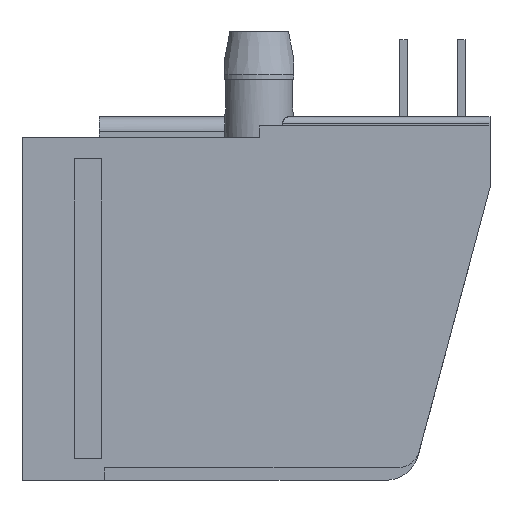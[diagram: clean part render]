
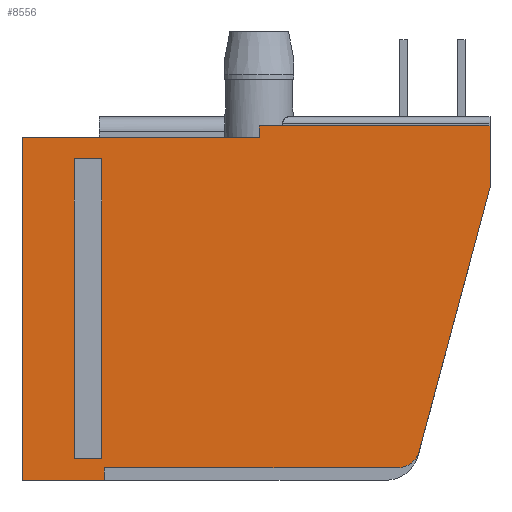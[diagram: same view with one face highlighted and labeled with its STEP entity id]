
A CAD part, left-side view. The second image highlights one B-rep face of the part: STEP entity #8556.
In plain terms, the highlighted planar face has unit normal (-1, 0, 0).
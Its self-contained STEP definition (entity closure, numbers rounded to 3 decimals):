
#14=DIRECTION('',(0.,0.,-1.));
#15=VECTOR('',#14,0.5);
#16=CARTESIAN_POINT('',(-6.605,-10.44,0.));
#17=LINE('',#16,#15);
#18=DIRECTION('',(0.,-1.,0.));
#19=VECTOR('',#18,10.16);
#20=CARTESIAN_POINT('',(-6.605,-10.44,0.));
#21=LINE('',#20,#19);
#22=DIRECTION('',(0.,0.,-1.));
#23=VECTOR('',#22,2.7);
#24=CARTESIAN_POINT('',(-6.605,-20.6,0.));
#25=LINE('',#24,#23);
#26=DIRECTION('',(0.,0.259,-0.966));
#27=VECTOR('',#26,12.018);
#28=CARTESIAN_POINT('',(-6.605,-20.6,-2.7));
#29=LINE('',#28,#27);
#30=CARTESIAN_POINT('',(-6.605,-16.524,-14.05));
#31=DIRECTION('',(-1.,0.,0.));
#32=DIRECTION('',(0.,0.,-1.));
#33=AXIS2_PLACEMENT_3D('',#30,#31,#32);
#35=DIRECTION('',(0.,1.,0.));
#36=VECTOR('',#35,12.894);
#37=CARTESIAN_POINT('',(-6.605,-16.524,-15.05));
#38=LINE('',#37,#36);
#39=DIRECTION('',(0.,0.,1.));
#40=VECTOR('',#39,0.55);
#41=CARTESIAN_POINT('',(-6.605,-3.63,-15.6));
#42=LINE('',#41,#40);
#43=DIRECTION('',(0.,1.,0.));
#44=VECTOR('',#43,3.63);
#45=CARTESIAN_POINT('',(-6.605,-3.63,-15.6));
#46=LINE('',#45,#44);
#47=DIRECTION('',(0.,0.,1.));
#48=VECTOR('',#47,15.1);
#49=CARTESIAN_POINT('',(-6.605,0.,-15.6));
#50=LINE('',#49,#48);
#51=DIRECTION('',(0.,-1.,0.));
#52=VECTOR('',#51,10.44);
#53=CARTESIAN_POINT('',(-6.605,0.,-0.5));
#54=LINE('',#53,#52);
#55=DIRECTION('',(0.,0.,1.));
#56=VECTOR('',#55,13.2);
#57=CARTESIAN_POINT('',(-6.605,-2.3,-14.65));
#58=LINE('',#57,#56);
#59=DIRECTION('',(0.,1.,0.));
#60=VECTOR('',#59,1.2);
#61=CARTESIAN_POINT('',(-6.605,-3.5,-14.65));
#62=LINE('',#61,#60);
#63=DIRECTION('',(0.,0.,-1.));
#64=VECTOR('',#63,13.2);
#65=CARTESIAN_POINT('',(-6.605,-3.5,-1.45));
#66=LINE('',#65,#64);
#67=DIRECTION('',(0.,-1.,0.));
#68=VECTOR('',#67,1.2);
#69=CARTESIAN_POINT('',(-6.605,-2.3,-1.45));
#70=LINE('',#69,#68);
#6546=CARTESIAN_POINT('',(-6.605,-20.6,0.));
#6547=CARTESIAN_POINT('',(-6.605,-20.6,-2.7));
#6548=VERTEX_POINT('',#6546);
#6549=VERTEX_POINT('',#6547);
#6554=CARTESIAN_POINT('',(-6.605,0.,-15.6));
#6556=VERTEX_POINT('',#6554);
#6558=CARTESIAN_POINT('',(-6.605,-3.63,-15.6));
#6559=CARTESIAN_POINT('',(-6.605,-3.63,-15.05));
#6560=VERTEX_POINT('',#6558);
#6561=VERTEX_POINT('',#6559);
#6580=CARTESIAN_POINT('',(-6.605,-16.524,-15.05));
#6582=VERTEX_POINT('',#6580);
#6584=CARTESIAN_POINT('',(-6.605,-17.489,-14.309));
#6585=VERTEX_POINT('',#6584);
#6610=CARTESIAN_POINT('',(-6.605,0.,-0.5));
#6612=VERTEX_POINT('',#6610);
#8251=CARTESIAN_POINT('',(-6.605,-2.3,-14.65));
#8252=VERTEX_POINT('',#8251);
#8253=CARTESIAN_POINT('',(-6.605,-2.3,-1.45));
#8254=VERTEX_POINT('',#8253);
#8255=CARTESIAN_POINT('',(-6.605,-3.5,-1.45));
#8256=VERTEX_POINT('',#8255);
#8257=CARTESIAN_POINT('',(-6.605,-3.5,-14.65));
#8258=VERTEX_POINT('',#8257);
#8465=CARTESIAN_POINT('',(-6.605,-10.44,0.));
#8466=CARTESIAN_POINT('',(-6.605,-10.44,-0.5));
#8467=VERTEX_POINT('',#8465);
#8468=VERTEX_POINT('',#8466);
#8519=CARTESIAN_POINT('',(-6.605,0.,0.));
#8520=DIRECTION('',(1.,0.,0.));
#8521=DIRECTION('',(0.,-1.,0.));
#8522=AXIS2_PLACEMENT_3D('',#8519,#8520,#8521);
#8523=PLANE('',#8522);
#8525=ORIENTED_EDGE('',*,*,#8524,.F.);
#8527=ORIENTED_EDGE('',*,*,#8526,.T.);
#8529=ORIENTED_EDGE('',*,*,#8528,.T.);
#8531=ORIENTED_EDGE('',*,*,#8530,.T.);
#8533=ORIENTED_EDGE('',*,*,#8532,.F.);
#8535=ORIENTED_EDGE('',*,*,#8534,.T.);
#8537=ORIENTED_EDGE('',*,*,#8536,.F.);
#8539=ORIENTED_EDGE('',*,*,#8538,.T.);
#8541=ORIENTED_EDGE('',*,*,#8540,.T.);
#8543=ORIENTED_EDGE('',*,*,#8542,.T.);
#8544=EDGE_LOOP('',(#8525,#8527,#8529,#8531,#8533,#8535,#8537,#8539,#8541,
#8543));
#8545=FACE_OUTER_BOUND('',#8544,.F.);
#8547=ORIENTED_EDGE('',*,*,#8546,.F.);
#8549=ORIENTED_EDGE('',*,*,#8548,.F.);
#8551=ORIENTED_EDGE('',*,*,#8550,.F.);
#8553=ORIENTED_EDGE('',*,*,#8552,.F.);
#8554=EDGE_LOOP('',(#8547,#8549,#8551,#8553));
#8555=FACE_BOUND('',#8554,.F.);
#8556=ADVANCED_FACE('',(#8545,#8555),#8523,.F.);
#34=CIRCLE('',#33,1.);
#8524=EDGE_CURVE('',#8467,#8468,#17,.T.);
#8526=EDGE_CURVE('',#8467,#6548,#21,.T.);
#8528=EDGE_CURVE('',#6548,#6549,#25,.T.);
#8530=EDGE_CURVE('',#6549,#6585,#29,.T.);
#8532=EDGE_CURVE('',#6582,#6585,#34,.T.);
#8534=EDGE_CURVE('',#6582,#6561,#38,.T.);
#8536=EDGE_CURVE('',#6560,#6561,#42,.T.);
#8538=EDGE_CURVE('',#6560,#6556,#46,.T.);
#8540=EDGE_CURVE('',#6556,#6612,#50,.T.);
#8542=EDGE_CURVE('',#6612,#8468,#54,.T.);
#8546=EDGE_CURVE('',#8252,#8254,#58,.T.);
#8548=EDGE_CURVE('',#8258,#8252,#62,.T.);
#8550=EDGE_CURVE('',#8256,#8258,#66,.T.);
#8552=EDGE_CURVE('',#8254,#8256,#70,.T.);
